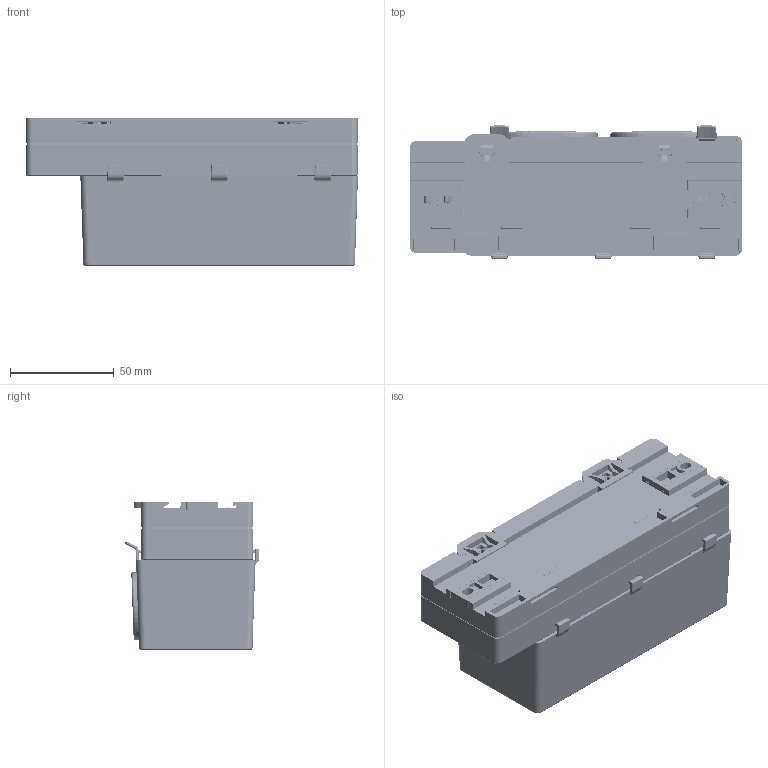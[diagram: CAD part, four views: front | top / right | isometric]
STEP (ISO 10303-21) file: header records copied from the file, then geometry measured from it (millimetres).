
FILE_DESCRIPTION((''),'2;1');
FILE_NAME('32_ASM','2026-08-24T14:56:56',('Admin'),(''),'CREO PARAMETRIC BY PTC INC, 2022073','CREO PARAMETRIC BY PTC INC, 2022073','');
FILE_SCHEMA(('CONFIG_CONTROL_DESIGN'));
Products named in the file (11): EC5-32_SW0003_1_1_1; EC5-32_SW0003_1_2_1; EC5-32_SW0003_1_3_1; EC5-32_SW0003_1_ASM_1_ASM; EC5-32_ASM_1_ASM; XX5-32IO-IPCOVER_57_1; 26X43000_3_1; 000_XX5_IPCOVER_ASM_ASM_16_ASM__ASM; 000_XX5_IPCOVER_ASM_ASM_ASM_1_ASM; ASM0001_ASM_1_ASM; 32_ASM
Assembly tree (11 placements, depth 5):
  32_ASM
    ASM0001_ASM_1_ASM
      EC5-32_ASM_1_ASM
        EC5-32_SW0003_1_ASM_1_ASM
          EC5-32_SW0003_1_1_1
          EC5-32_SW0003_1_2_1
          EC5-32_SW0003_1_3_1
      000_XX5_IPCOVER_ASM_ASM_ASM_1_ASM
        000_XX5_IPCOVER_ASM_ASM_16_ASM__ASM
          XX5-32IO-IPCOVER_57_1
          26X43000_3_1  x2
Bounding box: 160.18 x 64.58 x 71.6 mm (x, y, z)
Volume: 286925.5 mm3; surface area: 147941.4 mm2
Topology: 8 solids, 8 shells, 14582 faces, 41137 edges, 26860 vertices
Faces by surface type: plane 9111, cylinder 2928, extrusion 1387, bspline 508, cone 420, torus 154, sphere 74
Entity records: 499037 total; most frequent: CARTESIAN_POINT 132612, ORIENTED_EDGE 81502, DIRECTION 67237, EDGE_CURVE 40751, VECTOR 30859, LINE 29474, VERTEX_POINT 26649, AXIS2_PLACEMENT_3D 18189
